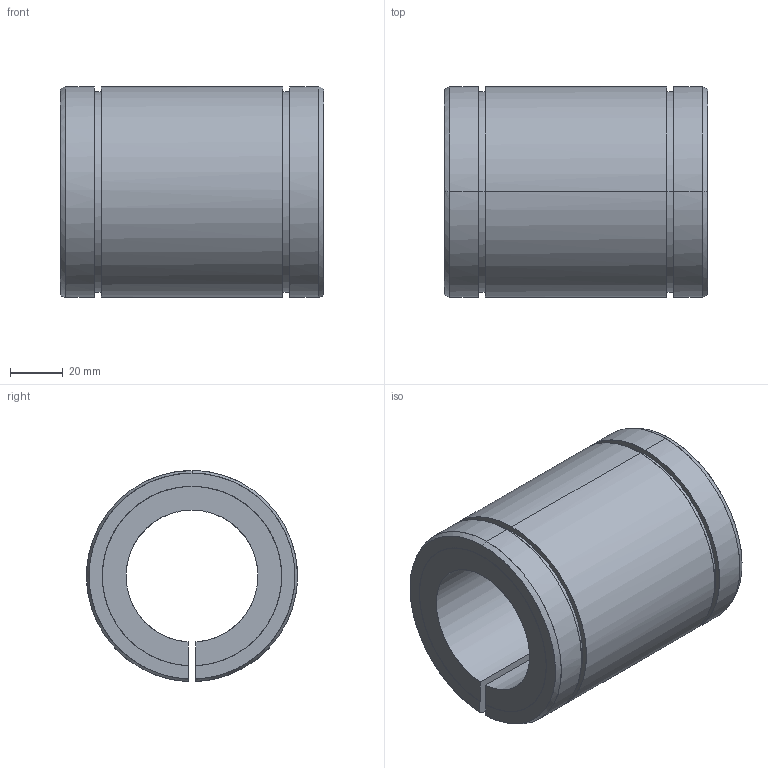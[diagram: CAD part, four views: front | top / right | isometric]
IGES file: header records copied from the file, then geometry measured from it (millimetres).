
Global section: file name: No Iges File Name specified; native system: AutoDesk Inventor R10; preprocessor: AutoDesk Inventor Iges Exporter R10; author: No Author specified; organization: No Organization specified; date: 20101208.100930; units: millimetre
Bounding box: 100 x 79.99 x 79.97 mm (x, y, z)
Surface area: 50753.8 mm2 (no closed solid volume)
Topology: 0 solids, 0 shells, 30 faces, 256 edges, 256 vertices
Faces by surface type: bspline 30
